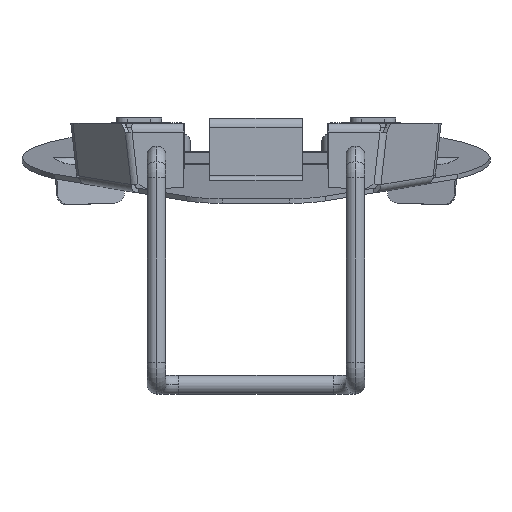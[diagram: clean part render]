
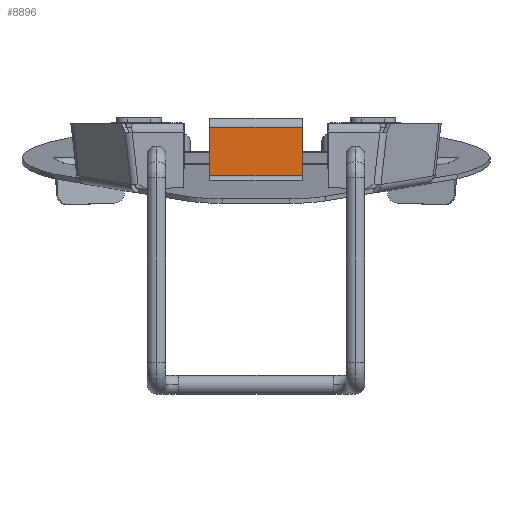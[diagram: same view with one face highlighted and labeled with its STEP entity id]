
A CAD part, left-side view. The second image highlights one B-rep face of the part: STEP entity #8896.
In plain terms, the highlighted planar face has unit normal (-1, 0, 0).
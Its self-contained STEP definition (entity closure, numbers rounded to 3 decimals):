
#2484=DIRECTION('',(0.,0.,1.));
#2485=VECTOR('',#2484,20.723);
#2486=CARTESIAN_POINT('',(87.332,19.8,-24.769));
#2487=LINE('',#2486,#2485);
#2610=DIRECTION('',(0.,0.,-1.));
#2611=VECTOR('',#2610,20.723);
#2612=CARTESIAN_POINT('',(87.332,-19.8,-4.046));
#2613=LINE('',#2612,#2611);
#2675=DIRECTION('',(0.,1.,0.));
#2676=VECTOR('',#2675,39.6);
#2677=CARTESIAN_POINT('',(87.332,-19.8,-24.769));
#2678=LINE('',#2677,#2676);
#2683=DIRECTION('',(0.,-1.,0.));
#2684=VECTOR('',#2683,39.6);
#2685=CARTESIAN_POINT('',(87.332,19.8,-4.046));
#2686=LINE('',#2685,#2684);
#4529=CARTESIAN_POINT('',(87.332,19.8,-24.769));
#4530=VERTEX_POINT('',#4529);
#4531=CARTESIAN_POINT('',(87.332,19.8,-4.046));
#4532=VERTEX_POINT('',#4531);
#4912=CARTESIAN_POINT('',(87.332,-19.8,-4.046));
#4913=VERTEX_POINT('',#4912);
#4914=CARTESIAN_POINT('',(87.332,-19.8,-24.769));
#4915=VERTEX_POINT('',#4914);
#8884=CARTESIAN_POINT('',(87.332,0.,
0.));
#8885=DIRECTION('',(-1.,0.,0.));
#8886=DIRECTION('',(0.,-1.,0.));
#8887=AXIS2_PLACEMENT_3D('',#8884,#8885,#8886);
#8888=PLANE('',#8887);
#8890=ORIENTED_EDGE('',*,*,#8889,.T.);
#8891=ORIENTED_EDGE('',*,*,#8785,.T.);
#8892=ORIENTED_EDGE('',*,*,#8876,.T.);
#8893=ORIENTED_EDGE('',*,*,#8675,.T.);
#8894=EDGE_LOOP('',(#8890,#8891,#8892,#8893));
#8895=FACE_OUTER_BOUND('',#8894,.F.);
#8896=ADVANCED_FACE('',(#8895),#8888,.T.);
#8675=EDGE_CURVE('',#4530,#4532,#2487,.T.);
#8785=EDGE_CURVE('',#4913,#4915,#2613,.T.);
#8876=EDGE_CURVE('',#4915,#4530,#2678,.T.);
#8889=EDGE_CURVE('',#4532,#4913,#2686,.T.);
